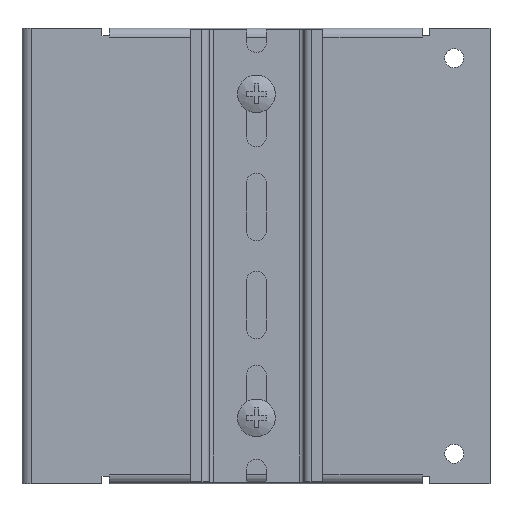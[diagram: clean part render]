
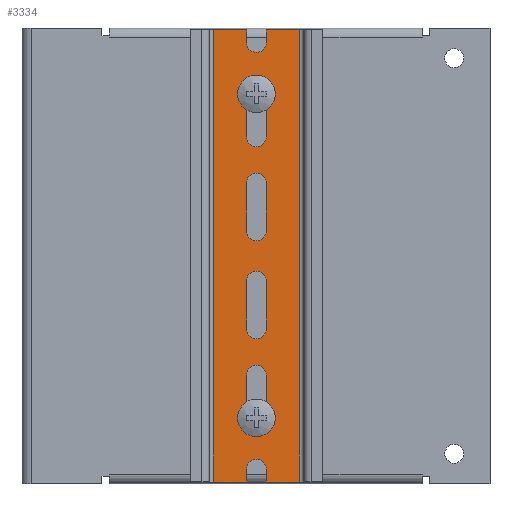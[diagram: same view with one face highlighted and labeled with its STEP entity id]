
A CAD part, top view. The second image highlights one B-rep face of the part: STEP entity #3334.
In plain terms, the highlighted planar face has unit normal (0, 0, 1).
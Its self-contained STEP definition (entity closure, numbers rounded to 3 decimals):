
#2127=CARTESIAN_POINT('',(91.6,2.6,1.));
#2128=VERTEX_POINT('',#2127);
#2135=CARTESIAN_POINT('',(91.6,-2.6,1.));
#2136=VERTEX_POINT('',#2135);
#2137=CARTESIAN_POINT('',(91.6,0.,1.));
#2138=DIRECTION('',(0.0,0.0,-1.0));
#2139=DIRECTION('',(0.0,-1.0,0.0));
#2140=AXIS2_PLACEMENT_3D('',#2137,#2138,#2139);
#2141=CIRCLE('',#2140,2.6);
#2142=EDGE_CURVE('',#2136,#2128,#2141,.T.);
#2167=CARTESIAN_POINT('',(104.4,-2.6,1.));
#2168=VERTEX_POINT('',#2167);
#2169=CARTESIAN_POINT('',(104.4,-2.6,1.));
#2170=DIRECTION('',(-1.0,0.0,0.0));
#2171=VECTOR('',#2170,12.8);
#2172=LINE('',#2169,#2171);
#2173=EDGE_CURVE('',#2168,#2136,#2172,.T.);
#2199=CARTESIAN_POINT('',(104.4,2.6,1.));
#2200=VERTEX_POINT('',#2199);
#2201=CARTESIAN_POINT('',(104.4,0.,1.));
#2202=DIRECTION('',(0.0,0.0,-1.0));
#2203=DIRECTION('',(0.0,1.0,0.0));
#2204=AXIS2_PLACEMENT_3D('',#2201,#2202,#2203);
#2205=CIRCLE('',#2204,2.6);
#2206=EDGE_CURVE('',#2200,#2168,#2205,.T.);
#2229=CARTESIAN_POINT('',(91.6,2.6,1.));
#2230=DIRECTION('',(1.0,0.0,0.0));
#2231=VECTOR('',#2230,12.8);
#2232=LINE('',#2229,#2231);
#2233=EDGE_CURVE('',#2128,#2200,#2232,.T.);
#2255=CARTESIAN_POINT('',(53.4,-2.6,1.));
#2256=VERTEX_POINT('',#2255);
#2263=CARTESIAN_POINT('',(53.4,2.6,1.));
#2264=VERTEX_POINT('',#2263);
#2265=CARTESIAN_POINT('',(53.4,0.0,1.));
#2266=DIRECTION('',(0.0,0.0,-1.0));
#2267=DIRECTION('',(0.0,1.0,0.0));
#2268=AXIS2_PLACEMENT_3D('',#2265,#2266,#2267);
#2269=CIRCLE('',#2268,2.6);
#2270=EDGE_CURVE('',#2264,#2256,#2269,.T.);
#2295=CARTESIAN_POINT('',(40.6,2.6,1.));
#2296=VERTEX_POINT('',#2295);
#2297=CARTESIAN_POINT('',(40.6,2.6,1.));
#2298=DIRECTION('',(1.0,0.0,0.0));
#2299=VECTOR('',#2298,12.8);
#2300=LINE('',#2297,#2299);
#2301=EDGE_CURVE('',#2296,#2264,#2300,.T.);
#2327=CARTESIAN_POINT('',(40.6,-2.6,1.));
#2328=VERTEX_POINT('',#2327);
#2329=CARTESIAN_POINT('',(40.6,0.,1.));
#2330=DIRECTION('',(0.0,0.0,-1.0));
#2331=DIRECTION('',(0.0,-1.0,0.0));
#2332=AXIS2_PLACEMENT_3D('',#2329,#2330,#2331);
#2333=CIRCLE('',#2332,2.6);
#2334=EDGE_CURVE('',#2328,#2296,#2333,.T.);
#2357=CARTESIAN_POINT('',(53.4,-2.6,1.));
#2358=DIRECTION('',(-1.0,0.0,0.0));
#2359=VECTOR('',#2358,12.8);
#2360=LINE('',#2357,#2359);
#2361=EDGE_CURVE('',#2256,#2328,#2360,.T.);
#2383=CARTESIAN_POINT('',(15.6,2.6,1.));
#2384=VERTEX_POINT('',#2383);
#2391=CARTESIAN_POINT('',(15.6,-2.6,1.));
#2392=VERTEX_POINT('',#2391);
#2393=CARTESIAN_POINT('',(15.6,0.0,1.));
#2394=DIRECTION('',(0.0,0.0,-1.0));
#2395=DIRECTION('',(0.0,1.0,0.0));
#2396=AXIS2_PLACEMENT_3D('',#2393,#2394,#2395);
#2397=CIRCLE('',#2396,2.6);
#2398=EDGE_CURVE('',#2392,#2384,#2397,.T.);
#2423=CARTESIAN_POINT('',(28.4,-2.6,1.));
#2424=VERTEX_POINT('',#2423);
#2425=CARTESIAN_POINT('',(28.4,-2.6,1.));
#2426=DIRECTION('',(-1.0,0.0,0.0));
#2427=VECTOR('',#2426,12.8);
#2428=LINE('',#2425,#2427);
#2429=EDGE_CURVE('',#2424,#2392,#2428,.T.);
#2455=CARTESIAN_POINT('',(28.4,2.6,1.));
#2456=VERTEX_POINT('',#2455);
#2457=CARTESIAN_POINT('',(28.4,0.,1.));
#2458=DIRECTION('',(0.0,0.0,-1.0));
#2459=DIRECTION('',(0.0,-1.0,0.0));
#2460=AXIS2_PLACEMENT_3D('',#2457,#2458,#2459);
#2461=CIRCLE('',#2460,2.6);
#2462=EDGE_CURVE('',#2456,#2424,#2461,.T.);
#2485=CARTESIAN_POINT('',(15.6,2.6,1.));
#2486=DIRECTION('',(1.0,0.0,0.0));
#2487=VECTOR('',#2486,12.8);
#2488=LINE('',#2485,#2487);
#2489=EDGE_CURVE('',#2384,#2456,#2488,.T.);
#2511=CARTESIAN_POINT('',(66.6,2.6,1.));
#2512=VERTEX_POINT('',#2511);
#2519=CARTESIAN_POINT('',(66.6,-2.6,1.));
#2520=VERTEX_POINT('',#2519);
#2521=CARTESIAN_POINT('',(66.6,0.0,1.));
#2522=DIRECTION('',(0.0,0.0,-1.0));
#2523=DIRECTION('',(0.0,1.0,0.0));
#2524=AXIS2_PLACEMENT_3D('',#2521,#2522,#2523);
#2525=CIRCLE('',#2524,2.6);
#2526=EDGE_CURVE('',#2520,#2512,#2525,.T.);
#2551=CARTESIAN_POINT('',(79.4,-2.6,1.));
#2552=VERTEX_POINT('',#2551);
#2553=CARTESIAN_POINT('',(79.4,-2.6,1.));
#2554=DIRECTION('',(-1.0,0.0,0.0));
#2555=VECTOR('',#2554,12.8);
#2556=LINE('',#2553,#2555);
#2557=EDGE_CURVE('',#2552,#2520,#2556,.T.);
#2583=CARTESIAN_POINT('',(79.4,2.6,1.));
#2584=VERTEX_POINT('',#2583);
#2585=CARTESIAN_POINT('',(79.4,0.0,1.));
#2586=DIRECTION('',(0.0,0.0,-1.0));
#2587=DIRECTION('',(0.0,-1.0,0.0));
#2588=AXIS2_PLACEMENT_3D('',#2585,#2586,#2587);
#2589=CIRCLE('',#2588,2.6);
#2590=EDGE_CURVE('',#2584,#2552,#2589,.T.);
#2613=CARTESIAN_POINT('',(66.6,2.6,1.));
#2614=DIRECTION('',(1.0,0.0,0.0));
#2615=VECTOR('',#2614,12.8);
#2616=LINE('',#2613,#2615);
#2617=EDGE_CURVE('',#2512,#2584,#2616,.T.);
#2638=CARTESIAN_POINT('',(120.0,2.6,1.));
#2639=VERTEX_POINT('',#2638);
#2646=CARTESIAN_POINT('',(116.6,2.6,1.));
#2647=VERTEX_POINT('',#2646);
#2648=CARTESIAN_POINT('',(116.6,2.6,1.));
#2649=DIRECTION('',(1.0,0.0,0.0));
#2650=VECTOR('',#2649,3.4);
#2651=LINE('',#2648,#2650);
#2652=EDGE_CURVE('',#2647,#2639,#2651,.T.);
#2678=CARTESIAN_POINT('',(116.6,-2.6,1.));
#2679=VERTEX_POINT('',#2678);
#2680=CARTESIAN_POINT('',(116.6,0.,1.));
#2681=DIRECTION('',(0.0,0.0,-1.0));
#2682=DIRECTION('',(0.0,1.0,0.0));
#2683=AXIS2_PLACEMENT_3D('',#2680,#2681,#2682);
#2684=CIRCLE('',#2683,2.6);
#2685=EDGE_CURVE('',#2679,#2647,#2684,.T.);
#2710=CARTESIAN_POINT('',(120.0,-2.6,1.));
#2711=VERTEX_POINT('',#2710);
#2712=CARTESIAN_POINT('',(120.0,-2.6,1.));
#2713=DIRECTION('',(-1.0,0.0,0.0));
#2714=VECTOR('',#2713,3.4);
#2715=LINE('',#2712,#2714);
#2716=EDGE_CURVE('',#2711,#2679,#2715,.T.);
#2743=CARTESIAN_POINT('',(3.4,-2.6,1.));
#2744=VERTEX_POINT('',#2743);
#2751=CARTESIAN_POINT('',(3.4,2.6,1.));
#2752=VERTEX_POINT('',#2751);
#2753=CARTESIAN_POINT('',(3.4,0.0,1.));
#2754=DIRECTION('',(0.0,0.0,-1.0));
#2755=DIRECTION('',(0.0,-1.0,0.0));
#2756=AXIS2_PLACEMENT_3D('',#2753,#2754,#2755);
#2757=CIRCLE('',#2756,2.6);
#2758=EDGE_CURVE('',#2752,#2744,#2757,.T.);
#2783=CARTESIAN_POINT('',(0.0,2.6,1.));
#2784=VERTEX_POINT('',#2783);
#2785=CARTESIAN_POINT('',(0.0,2.6,1.));
#2786=DIRECTION('',(1.0,0.0,0.0));
#2787=VECTOR('',#2786,3.4);
#2788=LINE('',#2785,#2787);
#2789=EDGE_CURVE('',#2784,#2752,#2788,.T.);
#2813=CARTESIAN_POINT('',(0.0,-2.6,1.));
#2814=VERTEX_POINT('',#2813);
#2821=CARTESIAN_POINT('',(3.4,-2.6,1.));
#2822=DIRECTION('',(-1.0,0.0,0.0));
#2823=VECTOR('',#2822,3.4);
#2824=LINE('',#2821,#2823);
#2825=EDGE_CURVE('',#2744,#2814,#2824,.T.);
#2837=CARTESIAN_POINT('',(120.0,-11.5,1.));
#2838=VERTEX_POINT('',#2837);
#2839=CARTESIAN_POINT('',(120.0,-11.5,1.));
#2840=DIRECTION('',(0.0,1.0,0.0));
#2841=VECTOR('',#2840,8.9);
#2842=LINE('',#2839,#2841);
#2843=EDGE_CURVE('',#2838,#2711,#2842,.T.);
#3011=CARTESIAN_POINT('',(120.0,11.5,1.0));
#3012=VERTEX_POINT('',#3011);
#3020=CARTESIAN_POINT('',(120.0,2.6,1.));
#3021=DIRECTION('',(0.0,1.0,0.0));
#3022=VECTOR('',#3021,8.9);
#3023=LINE('',#3020,#3022);
#3024=EDGE_CURVE('',#2639,#3012,#3023,.T.);
#3110=CARTESIAN_POINT('',(0.0,-11.5,1.));
#3111=VERTEX_POINT('',#3110);
#3119=CARTESIAN_POINT('',(0.0,-2.6,1.));
#3120=DIRECTION('',(0.0,-1.0,0.0));
#3121=VECTOR('',#3120,8.9);
#3122=LINE('',#3119,#3121);
#3123=EDGE_CURVE('',#2814,#3111,#3122,.T.);
#3268=CARTESIAN_POINT('',(0.0,-11.5,1.));
#3269=DIRECTION('',(1.0,0.0,0.0));
#3270=VECTOR('',#3269,120.0);
#3271=LINE('',#3268,#3270);
#3272=EDGE_CURVE('',#3111,#2838,#3271,.T.);
#3279=CARTESIAN_POINT('',(0.0,-11.5,1.));
#3280=DIRECTION('',(0.0,0.0,1.0));
#3281=DIRECTION('',(1.0,0.0,0.0));
#3282=AXIS2_PLACEMENT_3D('',#3279,#3280,#3281);
#3283=PLANE('',#3282);
#3284=ORIENTED_EDGE('',*,*,#2652,.T.);
#3285=ORIENTED_EDGE('',*,*,#3024,.T.);
#3286=CARTESIAN_POINT('',(0.0,11.5,1.0));
#3287=VERTEX_POINT('',#3286);
#3288=CARTESIAN_POINT('',(0.0,11.5,1.0));
#3289=DIRECTION('',(1.0,0.0,0.0));
#3290=VECTOR('',#3289,120.0);
#3291=LINE('',#3288,#3290);
#3292=EDGE_CURVE('',#3287,#3012,#3291,.T.);
#3293=ORIENTED_EDGE('',*,*,#3292,.F.);
#3294=CARTESIAN_POINT('',(0.0,11.5,1.0));
#3295=DIRECTION('',(0.0,-1.0,0.0));
#3296=VECTOR('',#3295,8.9);
#3297=LINE('',#3294,#3296);
#3298=EDGE_CURVE('',#3287,#2784,#3297,.T.);
#3299=ORIENTED_EDGE('',*,*,#3298,.T.);
#3300=ORIENTED_EDGE('',*,*,#2789,.T.);
#3301=ORIENTED_EDGE('',*,*,#2758,.T.);
#3302=ORIENTED_EDGE('',*,*,#2825,.T.);
#3303=ORIENTED_EDGE('',*,*,#3123,.T.);
#3304=ORIENTED_EDGE('',*,*,#3272,.T.);
#3305=ORIENTED_EDGE('',*,*,#2843,.T.);
#3306=ORIENTED_EDGE('',*,*,#2716,.T.);
#3307=ORIENTED_EDGE('',*,*,#2685,.T.);
#3308=EDGE_LOOP('',(#3284,#3285,#3293,#3299,#3300,#3301,#3302,#3303,#3304,#3305,#3306,#3307));
#3309=FACE_OUTER_BOUND('',#3308,.T.);
#3310=ORIENTED_EDGE('',*,*,#2142,.T.);
#3311=ORIENTED_EDGE('',*,*,#2233,.T.);
#3312=ORIENTED_EDGE('',*,*,#2206,.T.);
#3313=ORIENTED_EDGE('',*,*,#2173,.T.);
#3314=EDGE_LOOP('',(#3310,#3311,#3312,#3313));
#3315=FACE_BOUND('',#3314,.T.);
#3316=ORIENTED_EDGE('',*,*,#2270,.T.);
#3317=ORIENTED_EDGE('',*,*,#2361,.T.);
#3318=ORIENTED_EDGE('',*,*,#2334,.T.);
#3319=ORIENTED_EDGE('',*,*,#2301,.T.);
#3320=EDGE_LOOP('',(#3316,#3317,#3318,#3319));
#3321=FACE_BOUND('',#3320,.T.);
#3322=ORIENTED_EDGE('',*,*,#2398,.T.);
#3323=ORIENTED_EDGE('',*,*,#2489,.T.);
#3324=ORIENTED_EDGE('',*,*,#2462,.T.);
#3325=ORIENTED_EDGE('',*,*,#2429,.T.);
#3326=EDGE_LOOP('',(#3322,#3323,#3324,#3325));
#3327=FACE_BOUND('',#3326,.T.);
#3328=ORIENTED_EDGE('',*,*,#2526,.T.);
#3329=ORIENTED_EDGE('',*,*,#2617,.T.);
#3330=ORIENTED_EDGE('',*,*,#2590,.T.);
#3331=ORIENTED_EDGE('',*,*,#2557,.T.);
#3332=EDGE_LOOP('',(#3328,#3329,#3330,#3331));
#3333=FACE_BOUND('',#3332,.T.);
#3334=ADVANCED_FACE('',(#3309,#3315,#3321,#3327,#3333),#3283,.T.);
